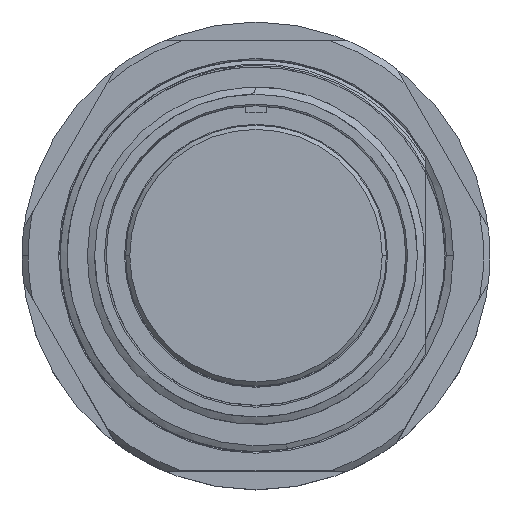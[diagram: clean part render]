
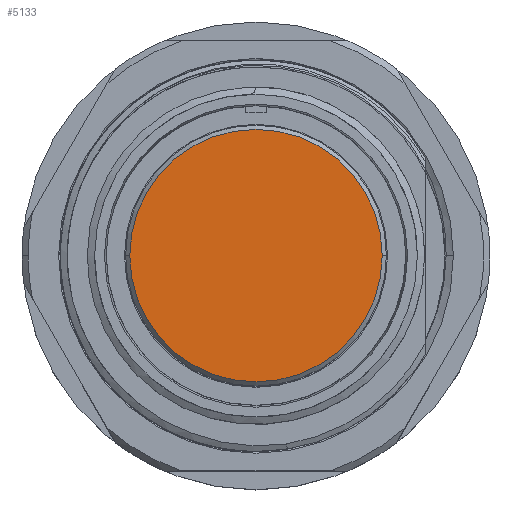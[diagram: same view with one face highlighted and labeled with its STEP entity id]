
A CAD part, top view. The second image highlights one B-rep face of the part: STEP entity #5133.
In plain terms, the highlighted planar face has unit normal (0, 0, 1).
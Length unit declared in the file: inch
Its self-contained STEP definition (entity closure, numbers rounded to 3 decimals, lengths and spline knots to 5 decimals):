
#1458 = ORIENTED_EDGE ( 'NONE', *, *, #9493, .T. ) ;
#2260 = DIRECTION ( 'NONE',  ( 1., 0., 0. ) ) ;
#3053 = DIRECTION ( 'NONE',  ( 0., 0., 1. ) ) ;
#4309 = EDGE_LOOP ( 'NONE', ( #14988, #1458 ) ) ;
#4343 = CARTESIAN_POINT ( 'NONE',  ( 0., 0., -0.018 ) ) ;
#4678 = CARTESIAN_POINT ( 'NONE',  ( 0.6045, 0., -0.018 ) ) ;
#5133 = ADVANCED_FACE ( 'NONE', ( #8740 ), #12380, .T. ) ;
#6231 = DIRECTION ( 'NONE',  ( 0., 0., 1. ) ) ;
#6430 = CARTESIAN_POINT ( 'NONE',  ( -0.6045, 0., -0.018 ) ) ;
#8626 = CIRCLE ( 'NONE', #12764, 0.6045 ) ;
#8740 = FACE_OUTER_BOUND ( 'NONE', #4309, .T. ) ;
#8775 = VERTEX_POINT ( 'NONE', #6430 ) ;
#8923 = CARTESIAN_POINT ( 'NONE',  ( 0., 0., -0.018 ) ) ;
#9067 = DIRECTION ( 'NONE',  ( 1., 0., 0. ) ) ;
#9374 = EDGE_CURVE ( 'NONE', #8775, #12893, #8626, .T. ) ;
#9493 = EDGE_CURVE ( 'NONE', #12893, #8775, #11229, .T. ) ;
#11186 = CARTESIAN_POINT ( 'NONE',  ( 0., 0., -0.018 ) ) ;
#11229 = CIRCLE ( 'NONE', #11736, 0.6045 ) ;
#11280 = DIRECTION ( 'NONE',  ( 0., 0., 1. ) ) ;
#11736 = AXIS2_PLACEMENT_3D ( 'NONE', #4343, #3053, #9067 ) ;
#12380 = PLANE ( 'NONE',  #13441 ) ;
#12764 = AXIS2_PLACEMENT_3D ( 'NONE', #8923, #11280, #13773 ) ;
#12893 = VERTEX_POINT ( 'NONE', #4678 ) ;
#13441 = AXIS2_PLACEMENT_3D ( 'NONE', #11186, #6231, #2260 ) ;
#13773 = DIRECTION ( 'NONE',  ( 1., 0., 0. ) ) ;
#14988 = ORIENTED_EDGE ( 'NONE', *, *, #9374, .T. ) ;
